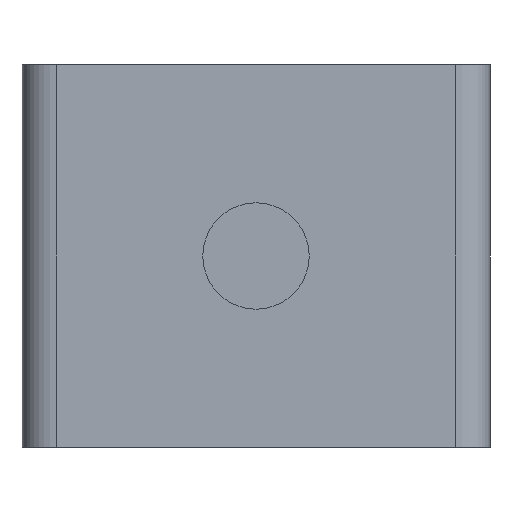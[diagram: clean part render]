
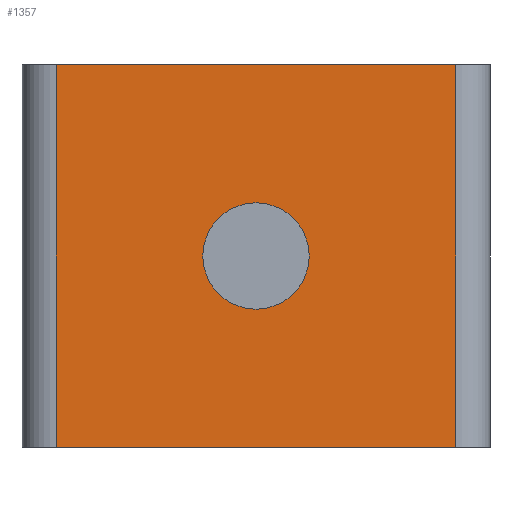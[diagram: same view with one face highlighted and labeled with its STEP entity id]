
A CAD part, front view. The second image highlights one B-rep face of the part: STEP entity #1357.
In plain terms, the highlighted planar face has unit normal (0, -1, 0).
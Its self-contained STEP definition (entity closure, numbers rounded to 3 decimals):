
#11 = EDGE_CURVE ( 'NONE', #232, #3036, #2238, .T. ) ;
#231 = CARTESIAN_POINT ( 'NONE',  ( -9.4, -22.1, 0. ) ) ;
#232 = VERTEX_POINT ( 'NONE', #1922 ) ;
#236 = CIRCLE ( 'NONE', #2586, 2.5 ) ;
#358 = EDGE_LOOP ( 'NONE', ( #1821, #2403 ) ) ;
#421 = PLANE ( 'NONE',  #2148 ) ;
#533 = VERTEX_POINT ( 'NONE', #2638 ) ;
#539 = EDGE_CURVE ( 'NONE', #917, #533, #2789, .T. ) ;
#575 = AXIS2_PLACEMENT_3D ( 'NONE', #837, #592, #1772 ) ;
#592 = DIRECTION ( 'NONE',  ( 0., -1., 0. ) ) ;
#660 = EDGE_CURVE ( 'NONE', #1284, #802, #2493, .T. ) ;
#731 = ORIENTED_EDGE ( 'NONE', *, *, #539, .T. ) ;
#788 = CARTESIAN_POINT ( 'NONE',  ( 9.4, -22.1, -9. ) ) ;
#802 = VERTEX_POINT ( 'NONE', #2472 ) ;
#837 = CARTESIAN_POINT ( 'NONE',  ( 0., -22.1, -9. ) ) ;
#860 = EDGE_CURVE ( 'NONE', #3036, #232, #236, .T. ) ;
#917 = VERTEX_POINT ( 'NONE', #231 ) ;
#1072 = VECTOR ( 'NONE', #2764, 1000. ) ;
#1107 = CARTESIAN_POINT ( 'NONE',  ( 9.4, -22.1, 0. ) ) ;
#1212 = CARTESIAN_POINT ( 'NONE',  ( -9.4, -22.1, -9. ) ) ;
#1265 = ORIENTED_EDGE ( 'NONE', *, *, #660, .F. ) ;
#1277 = EDGE_CURVE ( 'NONE', #1284, #917, #3060, .T. ) ;
#1284 = VERTEX_POINT ( 'NONE', #1107 ) ;
#1357 = ADVANCED_FACE ( 'NONE', ( #1491, #2199 ), #421, .F. ) ;
#1390 = DIRECTION ( 'NONE',  ( 0., -1., 0. ) ) ;
#1449 = DIRECTION ( 'NONE',  ( 0., 0., -1. ) ) ;
#1491 = FACE_BOUND ( 'NONE', #358, .T. ) ;
#1579 = DIRECTION ( 'NONE',  ( -1., 0., 0. ) ) ;
#1727 = DIRECTION ( 'NONE',  ( 0., 0., -1. ) ) ;
#1772 = DIRECTION ( 'NONE',  ( 0., 0., 1. ) ) ;
#1821 = ORIENTED_EDGE ( 'NONE', *, *, #860, .F. ) ;
#1847 = VECTOR ( 'NONE', #1579, 1000. ) ;
#1922 = CARTESIAN_POINT ( 'NONE',  ( 0., -22.1, -11.5 ) ) ;
#2011 = ORIENTED_EDGE ( 'NONE', *, *, #2447, .F. ) ;
#2148 = AXIS2_PLACEMENT_3D ( 'NONE', #3042, #2790, #2567 ) ;
#2164 = VECTOR ( 'NONE', #1449, 1000. ) ;
#2199 = FACE_OUTER_BOUND ( 'NONE', #2661, .T. ) ;
#2238 = CIRCLE ( 'NONE', #575, 2.5 ) ;
#2284 = CARTESIAN_POINT ( 'NONE',  ( 0., -22.1, 0. ) ) ;
#2293 = CARTESIAN_POINT ( 'NONE',  ( 0., -22.1, -18. ) ) ;
#2403 = ORIENTED_EDGE ( 'NONE', *, *, #11, .F. ) ;
#2447 = EDGE_CURVE ( 'NONE', #802, #533, #2558, .T. ) ;
#2472 = CARTESIAN_POINT ( 'NONE',  ( 9.4, -22.1, -18. ) ) ;
#2493 = LINE ( 'NONE', #788, #3062 ) ;
#2558 = LINE ( 'NONE', #2293, #1847 ) ;
#2567 = DIRECTION ( 'NONE',  ( 0., 0., 1. ) ) ;
#2583 = ORIENTED_EDGE ( 'NONE', *, *, #1277, .T. ) ;
#2586 = AXIS2_PLACEMENT_3D ( 'NONE', #2804, #1390, #3057 ) ;
#2638 = CARTESIAN_POINT ( 'NONE',  ( -9.4, -22.1, -18. ) ) ;
#2661 = EDGE_LOOP ( 'NONE', ( #731, #2011, #1265, #2583 ) ) ;
#2703 = CARTESIAN_POINT ( 'NONE',  ( 0., -22.1, -6.5 ) ) ;
#2764 = DIRECTION ( 'NONE',  ( -1., 0., 0. ) ) ;
#2789 = LINE ( 'NONE', #1212, #2164 ) ;
#2790 = DIRECTION ( 'NONE',  ( 0., 1., 0. ) ) ;
#2804 = CARTESIAN_POINT ( 'NONE',  ( 0., -22.1, -9. ) ) ;
#3036 = VERTEX_POINT ( 'NONE', #2703 ) ;
#3042 = CARTESIAN_POINT ( 'NONE',  ( -9.4, -22.1, -18. ) ) ;
#3057 = DIRECTION ( 'NONE',  ( 0., 0., 1. ) ) ;
#3060 = LINE ( 'NONE', #2284, #1072 ) ;
#3062 = VECTOR ( 'NONE', #1727, 1000. ) ;
